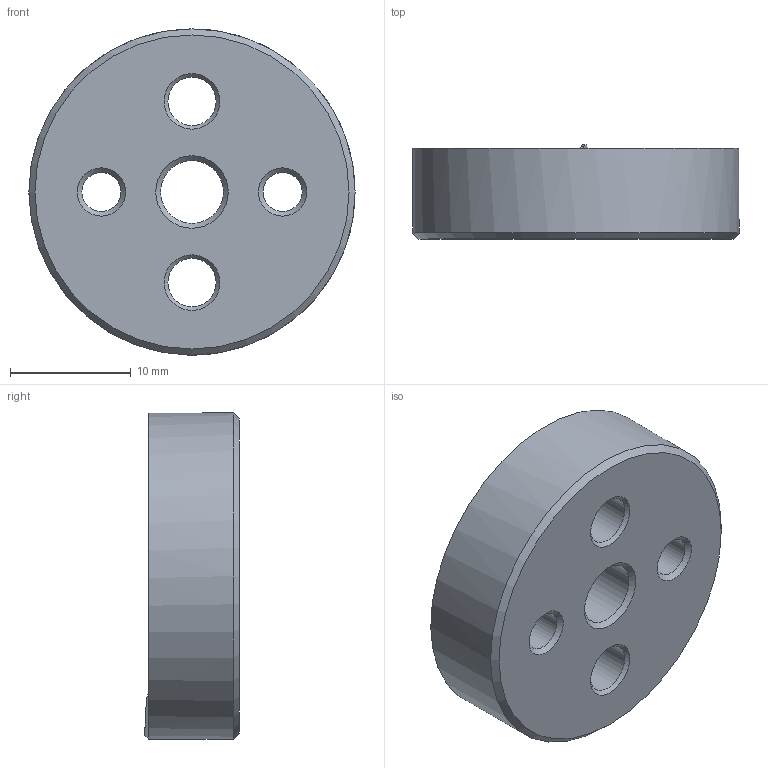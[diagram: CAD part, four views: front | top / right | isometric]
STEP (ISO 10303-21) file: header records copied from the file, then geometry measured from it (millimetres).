
FILE_DESCRIPTION( ( 'STEP AP203' ), '1' );
FILE_NAME( 'C:/Temp/Ganter_Step_05_03_2020/data/3_2/gn187_4/gn187_4_st/Serrated locking plate GN 187.4-27-60-D-ST.stp', '2020-03-13T05:25:47', ( 'License CC BY-ND 4.0' ), ( 'CADENAS' ), ' ', 'PARTsolutions', ' ' );
FILE_SCHEMA( ( 'CONFIG_CONTROL_DESIGN' ) );
Length unit declared in the file: millimetre
Products named in the file (1): _Serrated locking plate GN 187.4-27-60-D-ST
Bounding box: 27 x 7.84 x 27 mm (x, y, z)
Volume: 3568 mm3; surface area: 2076.1 mm2
Topology: 1 solids, 1 shells, 31 faces, 77 edges, 48 vertices
Faces by surface type: cone 15, cylinder 9, plane 7
Full cylindrical faces by diameter (mm): 3.242 x2, 4 x2, 5.2 x1, 19.5 x1, 27 x1
Entity records: 960 total; most frequent: CARTESIAN_POINT 241, DIRECTION 146, ORIENTED_EDGE 112, AXIS2_PLACEMENT_3D 70, EDGE_LOOP 59, EDGE_CURVE 56, VERTEX_POINT 45, FACE_OUTER_BOUND 38
